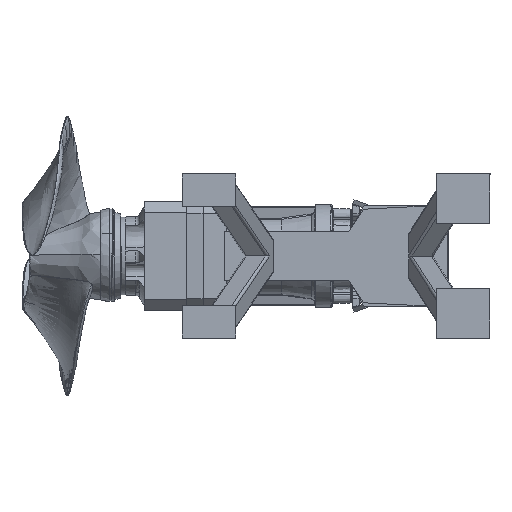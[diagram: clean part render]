
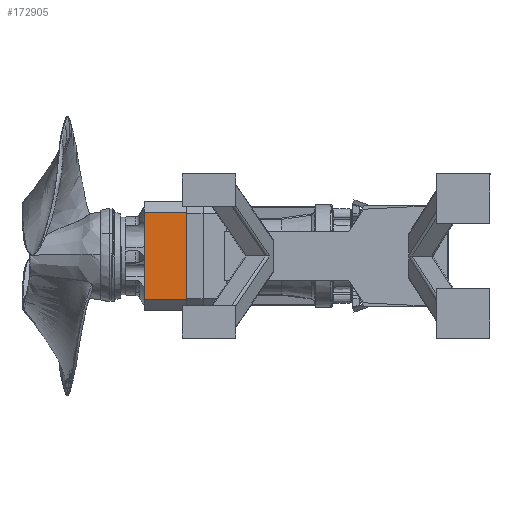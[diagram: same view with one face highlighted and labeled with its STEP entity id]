
A CAD part, front view. The second image highlights one B-rep face of the part: STEP entity #172905.
In plain terms, the highlighted planar face has unit normal (0, -1, 0).
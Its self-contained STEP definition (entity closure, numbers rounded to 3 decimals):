
#7690 = CARTESIAN_POINT ( 'NONE',  ( -208., -129.4, -107. ) ) ;
#8369 = ORIENTED_EDGE ( 'NONE', *, *, #45522, .T. ) ;
#11590 = CARTESIAN_POINT ( 'NONE',  ( -105., -129.4, -107. ) ) ;
#18838 = ORIENTED_EDGE ( 'NONE', *, *, #121102, .F. ) ;
#19108 = CARTESIAN_POINT ( 'NONE',  ( -105., -129.4, -107. ) ) ;
#21075 = ORIENTED_EDGE ( 'NONE', *, *, #109117, .F. ) ;
#25799 = LINE ( 'NONE', #11590, #30360 ) ;
#27170 = ORIENTED_EDGE ( 'NONE', *, *, #33901, .T. ) ;
#30360 = VECTOR ( 'NONE', #69576, 1000. ) ;
#33785 = DIRECTION ( 'NONE',  ( 0., 0., 1. ) ) ;
#33901 = EDGE_CURVE ( 'NONE', #167164, #152430, #57652, .T. ) ;
#41501 = LINE ( 'NONE', #7690, #75717 ) ;
#45522 = EDGE_CURVE ( 'NONE', #152430, #96603, #71478, .T. ) ;
#48611 = VERTEX_POINT ( 'NONE', #149749 ) ;
#57652 = LINE ( 'NONE', #78189, #135014 ) ;
#69576 = DIRECTION ( 'NONE',  ( -1., 0., 0. ) ) ;
#71478 = LINE ( 'NONE', #127955, #105576 ) ;
#74795 = AXIS2_PLACEMENT_3D ( 'NONE', #19108, #120870, #33785 ) ;
#75717 = VECTOR ( 'NONE', #181814, 1000. ) ;
#78189 = CARTESIAN_POINT ( 'NONE',  ( -105., -129.4, -107. ) ) ;
#96603 = VERTEX_POINT ( 'NONE', #126234 ) ;
#105576 = VECTOR ( 'NONE', #187546, 1000. ) ;
#109117 = EDGE_CURVE ( 'NONE', #167164, #48611, #25799, .T. ) ;
#118211 = FACE_OUTER_BOUND ( 'NONE', #153991, .T. ) ;
#120870 = DIRECTION ( 'NONE',  ( 0., -1., 0. ) ) ;
#121102 = EDGE_CURVE ( 'NONE', #48611, #96603, #41501, .T. ) ;
#126234 = CARTESIAN_POINT ( 'NONE',  ( -208., -129.4, 107. ) ) ;
#127955 = CARTESIAN_POINT ( 'NONE',  ( -105., -129.4, 107. ) ) ;
#135014 = VECTOR ( 'NONE', #179697, 1000. ) ;
#141491 = CARTESIAN_POINT ( 'NONE',  ( -105., -129.4, 107. ) ) ;
#148809 = PLANE ( 'NONE',  #74795 ) ;
#149749 = CARTESIAN_POINT ( 'NONE',  ( -208., -129.4, -107. ) ) ;
#152430 = VERTEX_POINT ( 'NONE', #141491 ) ;
#153991 = EDGE_LOOP ( 'NONE', ( #18838, #21075, #27170, #8369 ) ) ;
#166012 = CARTESIAN_POINT ( 'NONE',  ( -105., -129.4, -107. ) ) ;
#167164 = VERTEX_POINT ( 'NONE', #166012 ) ;
#172905 = ADVANCED_FACE ( 'NONE', ( #118211 ), #148809, .T. ) ;
#179697 = DIRECTION ( 'NONE',  ( 0., 0., 1. ) ) ;
#181814 = DIRECTION ( 'NONE',  ( 0., 0., 1. ) ) ;
#187546 = DIRECTION ( 'NONE',  ( -1., 0., 0. ) ) ;
